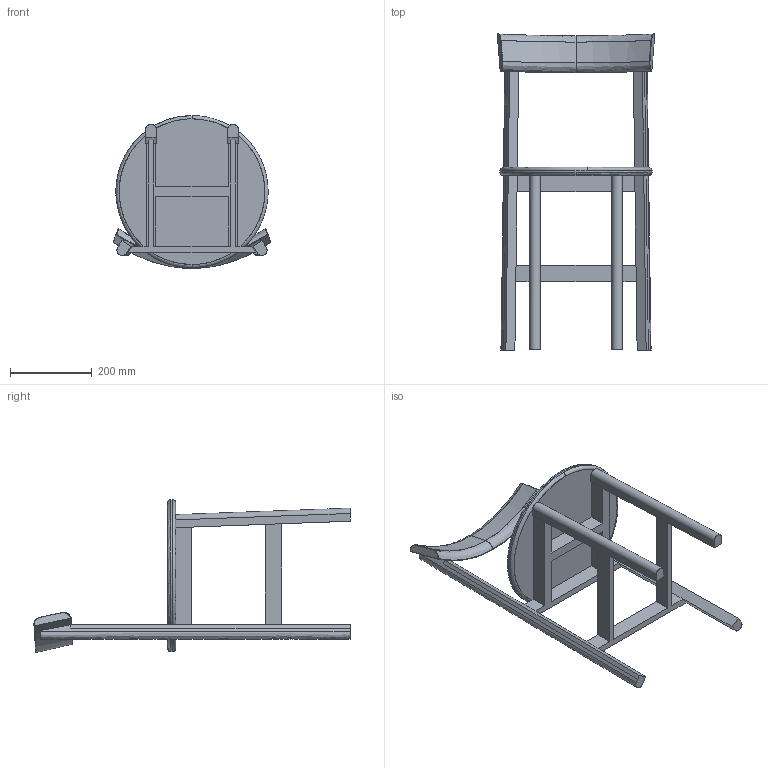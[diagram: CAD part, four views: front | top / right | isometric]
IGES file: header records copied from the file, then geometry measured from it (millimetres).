
Start section: SolidWorks IGES file using analytic representation for surfaces
Global section: file name: C:\Users\David.BDLE\Desktop\Novos produtos\798 Petit Chair 4_version b\798 Petit Chair_3D IGS.IGS; native system: SolidWorks 2016; preprocessor: SolidWorks 2016; author: David; date: 210609.162803; units: millimetre
Bounding box: 385.23 x 773.47 x 374.03 mm (x, y, z)
Surface area: 727188 mm2 (no closed solid volume)
Topology: 0 solids, 0 shells, 99 faces, 914 edges, 906 vertices
Faces by surface type: bspline 97, revolution 2
